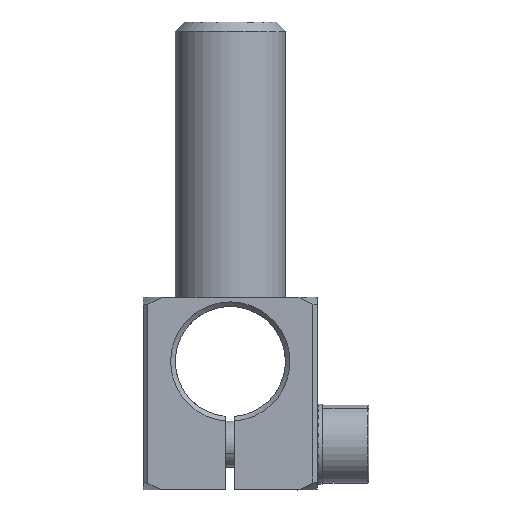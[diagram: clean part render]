
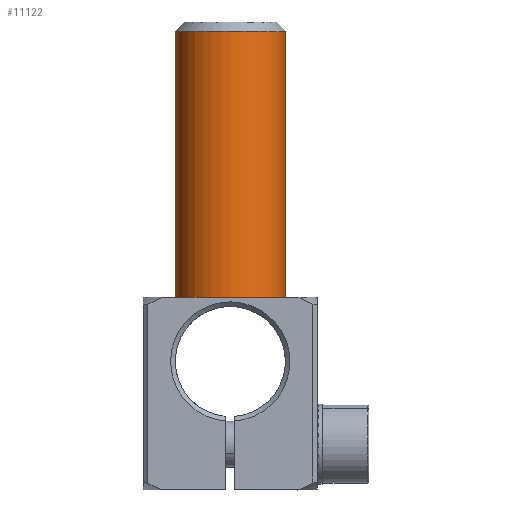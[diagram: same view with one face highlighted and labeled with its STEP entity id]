
A CAD part, front view. The second image highlights one B-rep face of the part: STEP entity #11122.
In plain terms, the highlighted cylindrical face has radius 6 mm (diameter 12 mm), a partial arc.
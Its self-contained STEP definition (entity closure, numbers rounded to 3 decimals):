
#180 = DIRECTION ( 'NONE',  ( 0., 0., -1. ) ) ;
#204 = CIRCLE ( 'NONE', #11942, 6. ) ;
#249 = VERTEX_POINT ( 'NONE', #10165 ) ;
#733 = FACE_OUTER_BOUND ( 'NONE', #6589, .T. ) ;
#881 = CARTESIAN_POINT ( 'NONE',  ( -0.502, 35.733, -4.5 ) ) ;
#1520 = LINE ( 'NONE', #3180, #2271 ) ;
#1550 = ORIENTED_EDGE ( 'NONE', *, *, #2636, .T. ) ;
#1612 = CARTESIAN_POINT ( 'NONE',  ( -6.502, 35.733, -4.5 ) ) ;
#1955 = VECTOR ( 'NONE', #6153, 1000. ) ;
#2271 = VECTOR ( 'NONE', #2378, 1000. ) ;
#2378 = DIRECTION ( 'NONE',  ( 0., 0., -1. ) ) ;
#2636 = EDGE_CURVE ( 'NONE', #249, #6803, #204, .T. ) ;
#3089 = AXIS2_PLACEMENT_3D ( 'NONE', #5175, #180, #4991 ) ;
#3180 = CARTESIAN_POINT ( 'NONE',  ( -6.502, 35.733, 24.5 ) ) ;
#3341 = DIRECTION ( 'NONE',  ( 0., 0., 1. ) ) ;
#4003 = EDGE_CURVE ( 'NONE', #10484, #7503, #5211, .T. ) ;
#4251 = LINE ( 'NONE', #5206, #1955 ) ;
#4327 = CARTESIAN_POINT ( 'NONE',  ( 5.498, 35.733, -4.5 ) ) ;
#4457 = VERTEX_POINT ( 'NONE', #1612 ) ;
#4511 = CYLINDRICAL_SURFACE ( 'NONE', #3089, 6. ) ;
#4714 = DIRECTION ( 'NONE',  ( -1., 0., 0. ) ) ;
#4858 = ORIENTED_EDGE ( 'NONE', *, *, #6974, .T. ) ;
#4991 = DIRECTION ( 'NONE',  ( -1., 0., 0. ) ) ;
#5106 = EDGE_CURVE ( 'NONE', #4457, #249, #8141, .T. ) ;
#5175 = CARTESIAN_POINT ( 'NONE',  ( -0.502, 35.733, 24.5 ) ) ;
#5206 = CARTESIAN_POINT ( 'NONE',  ( 5.498, 35.733, 24.5 ) ) ;
#5211 = CIRCLE ( 'NONE', #12168, 6. ) ;
#5558 = AXIS2_PLACEMENT_3D ( 'NONE', #11785, #3341, #9989 ) ;
#6153 = DIRECTION ( 'NONE',  ( 0., 0., -1. ) ) ;
#6589 = EDGE_LOOP ( 'NONE', ( #12074, #8172, #4858, #8255, #1550 ) ) ;
#6768 = EDGE_CURVE ( 'NONE', #7503, #6803, #4251, .T. ) ;
#6803 = VERTEX_POINT ( 'NONE', #4327 ) ;
#6974 = EDGE_CURVE ( 'NONE', #10484, #4457, #1520, .T. ) ;
#7503 = VERTEX_POINT ( 'NONE', #12227 ) ;
#7570 = CARTESIAN_POINT ( 'NONE',  ( -6.502, 35.733, 24.5 ) ) ;
#7577 = CARTESIAN_POINT ( 'NONE',  ( -0.502, 35.733, 24.5 ) ) ;
#8141 = CIRCLE ( 'NONE', #5558, 6. ) ;
#8172 = ORIENTED_EDGE ( 'NONE', *, *, #4003, .F. ) ;
#8255 = ORIENTED_EDGE ( 'NONE', *, *, #5106, .T. ) ;
#8783 = DIRECTION ( 'NONE',  ( -1., 0., 0. ) ) ;
#9384 = DIRECTION ( 'NONE',  ( 0., 0., 1. ) ) ;
#9989 = DIRECTION ( 'NONE',  ( -1., 0., 0. ) ) ;
#10165 = CARTESIAN_POINT ( 'NONE',  ( -0.502, 29.733, -4.5 ) ) ;
#10484 = VERTEX_POINT ( 'NONE', #7570 ) ;
#11122 = ADVANCED_FACE ( 'NONE', ( #733 ), #4511, .T. ) ;
#11393 = DIRECTION ( 'NONE',  ( 0., 0., 1. ) ) ;
#11785 = CARTESIAN_POINT ( 'NONE',  ( -0.502, 35.733, -4.5 ) ) ;
#11942 = AXIS2_PLACEMENT_3D ( 'NONE', #881, #9384, #4714 ) ;
#12074 = ORIENTED_EDGE ( 'NONE', *, *, #6768, .F. ) ;
#12168 = AXIS2_PLACEMENT_3D ( 'NONE', #7577, #11393, #8783 ) ;
#12227 = CARTESIAN_POINT ( 'NONE',  ( 5.498, 35.733, 24.5 ) ) ;
